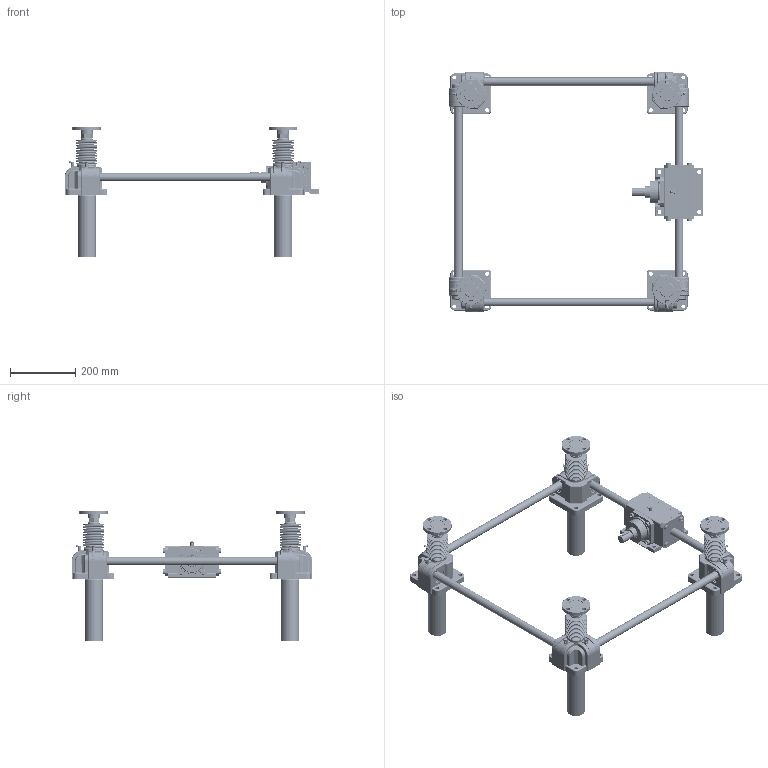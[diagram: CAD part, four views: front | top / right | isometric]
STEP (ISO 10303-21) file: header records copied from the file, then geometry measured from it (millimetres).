
FILE_DESCRIPTION(('STEP AP203'),'1');
FILE_NAME('SPB1500FCJ-600x600-300-150ST_CAP.stp','2016-08-18T01:55:47',(' '),(' '),'Spatial InterOp 3D',' ',' ');
FILE_SCHEMA(('CONFIG_CONTROL_DESIGN'));
Length unit declared in the file: millimetre
Products named in the file (115): SPB1500FCJ-600x600-300-150ST_CAP; Rack Gear(SP-1500FC); Flange.1-Part; Flange.1; Joint.1; Nut.1; Flange.2-Part; Flange.2; Joint.2; Nut.2; Flange.3-Part; Flange.3; Joint.3; Nut.3; Flange.4-Part; Flange.4; Joint.4; Nut.4; Bellow(SP-1500); Body.1-Part; Nipple; b6205zz; SnapRing-55Pie; Gear Box.1(NSP-1500); RJ05-4SCJ-610X600-100ST_CAP; LABEL-B.1; ___; 파트18; __ ; Body.2-Part; Gear Box.2(NSP-1500); Body.3-Part; Gear Box.3(NSP-1500); Body.4-Part; Gear Box.4(NSP-1500); Cap.1-Part; Cap.1; Snap Ring.1; Cap.2-Part; Cap.2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
Assembly tree (122 placements, depth 6):
  SPB1500FCJ-600x600-300-150ST_CAP
    Rack Gear(SP-1500FC)  x4
    Flange.1-Part
      Flange.1
      Joint.1
      Nut.1
    Flange.2-Part
      Flange.2
      Joint.2
      Nut.2
    Flange.3-Part
      Flange.3
      Joint.3
      Nut.3
    Flange.4-Part
      Flange.4
      Joint.4
      Nut.4
    Bellow(SP-1500)  x4
    Body.1-Part
      Nipple
      Nipple
      b6205zz
      b6205zz
      SnapRing-55Pie
      SnapRing-55Pie
      Gear Box.1(NSP-1500)
      __ 
        ___
          RJ05-4SCJ-610X600-100ST_CAP
            LABEL-B.1
          파트18
    Body.2-Part
      Nipple
      Nipple
      b6205zz
      b6205zz
      SnapRing-55Pie
      SnapRing-55Pie
      Gear Box.2(NSP-1500)
      __ 
        ___
          RJ05-4SCJ-610X600-100ST_CAP
            LABEL-B.1
          파트18
    Body.3-Part
      Nipple
      Nipple
      b6205zz
      b6205zz
      SnapRing-55Pie
      SnapRing-55Pie
      Gear Box.3(NSP-1500)
      __ 
        ___
          RJ05-4SCJ-610X600-100ST_CAP
            LABEL-B.1
          파트18
    Body.4-Part
      Nipple
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Bounding box: 778.39 x 735.28 x 400 mm (x, y, z)
Volume: 6295054.4 mm3; surface area: 2160751.5 mm2
Topology: 156 solids, 186 shells, 15746 faces, 43371 edges, 28272 vertices
Faces by surface type: plane 12101, cylinder 2092, torus 552, cone 329, bspline 224, revolution 189, extrusion 171, sphere 88
Full cylindrical faces by diameter (mm): 2.975 x8, 3.087 x16, 4.8 x9, 6 x1, 8 x32, 9.5 x12, 9.886 x9, 10 x8, 12 x36, 15 x12, 25 x29, 26 x2, 27 x4, 28 x8, 32.5 x16, 35 x65, 36 x4, 37 x5, 38 x4, 39 x12, 39.4 x4, 40 x1, 41 x8, 42 x1, 44 x4, 45 x5, 46.1 x16, 47 x4, 48 x4, 49 x4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
Entity records: 466907 total; most frequent: CARTESIAN_POINT 110376, ORIENTED_EDGE 75256, DIRECTION 66501, EDGE_CURVE 37694, VECTOR 32608, LINE 32437, VERTEX_POINT 25065, AXIS2_PLACEMENT_3D 16852
